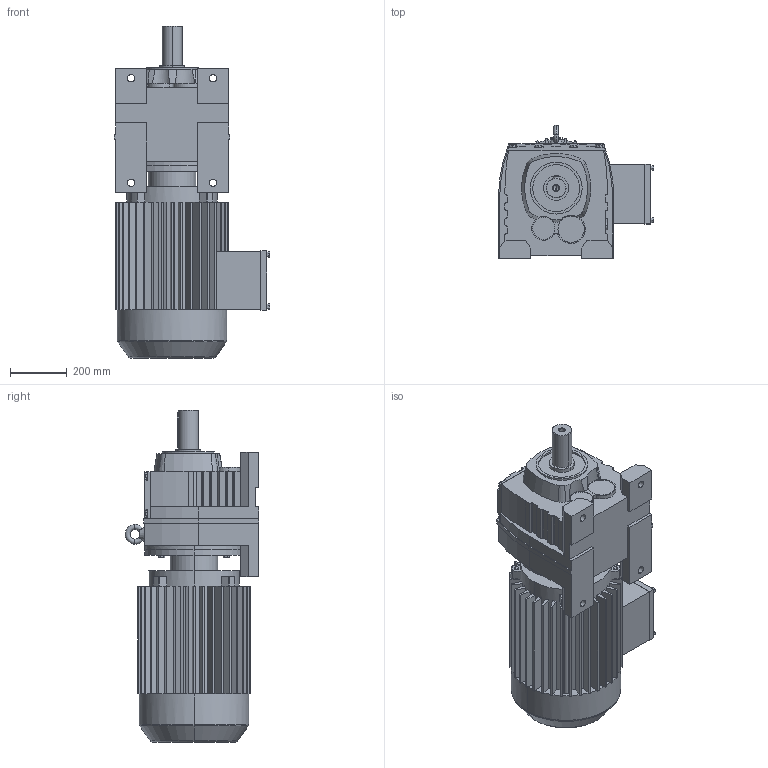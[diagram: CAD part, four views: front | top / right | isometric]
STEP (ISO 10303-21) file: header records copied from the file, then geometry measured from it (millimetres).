
FILE_DESCRIPTION(('Open CASCADE Model'),'2;1');
FILE_NAME('Open CASCADE Shape Model','2021-07-06T16:38:43',('Author'),( 'Open CASCADE'),'Open CASCADE STEP processor 6.3','Open CASCADE 6.3' ,'Unknown');
FILE_SCHEMA(('AUTOMOTIVE_DESIGN_CC2 { 1 2 10303 214 -1 1 5 4 }'));
Length unit declared in the file: millimetre
Products named in the file (3): 1_R107-Y225S; R37‵167_107.step; 萇儂_350_Y225S.step
Assembly tree (2 placements, depth 2):
  1_R107-Y225S
    R37‵167_107.step
    萇儂_350_Y225S.step
Bounding box: 549.5 x 473.5 x 1175 mm (x, y, z)
Volume: 116961510.9 mm3; surface area: 3201895.9 mm2
Topology: 2 solids, 2 shells, 736 faces, 1954 edges, 1263 vertices
Faces by surface type: plane 521, cylinder 185, cone 20, torus 10
Entity records: 51003 total; most frequent: CARTESIAN_POINT 13723, DIRECTION 6501, ORIENTED_EDGE 3904, PCURVE 3904, DEFINITIONAL_REPRESENTATION 3904, LINE 3641, VECTOR 3641, EDGE_CURVE 1952
